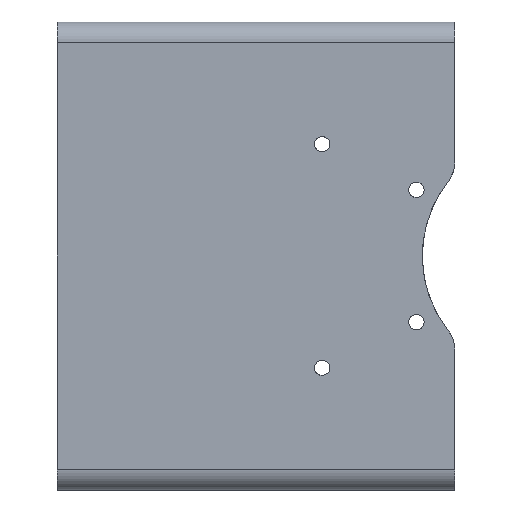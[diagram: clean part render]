
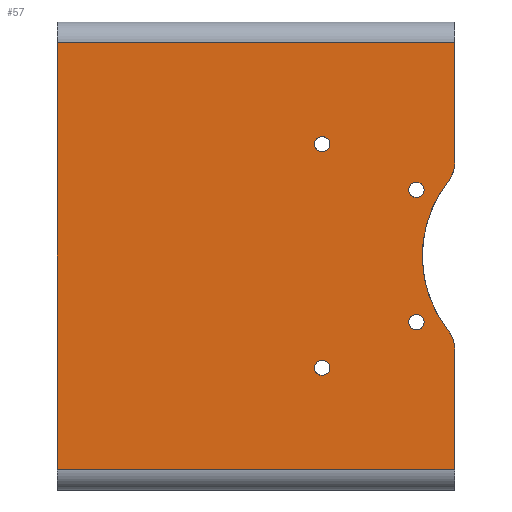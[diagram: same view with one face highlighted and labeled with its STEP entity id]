
A CAD part, left-side view. The second image highlights one B-rep face of the part: STEP entity #57.
In plain terms, the highlighted planar face has unit normal (-1, 0, 0).
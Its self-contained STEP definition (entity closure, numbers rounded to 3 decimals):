
#57=ADVANCED_FACE('',(#197,#143,#144,#145,#146),#1911,.T.);
#143=FACE_BOUND('',#327,.T.);
#144=FACE_BOUND('',#328,.T.);
#145=FACE_BOUND('',#329,.T.);
#146=FACE_BOUND('',#330,.T.);
#197=FACE_OUTER_BOUND('',#326,.T.);
#326=EDGE_LOOP('',(#682,#683,#684,#685,#686,#687,#688,#689));
#327=EDGE_LOOP('',(#690,#691));
#328=EDGE_LOOP('',(#692,#693));
#329=EDGE_LOOP('',(#694,#695));
#330=EDGE_LOOP('',(#696,#697));
#682=ORIENTED_EDGE('',*,*,#1190,.T.);
#683=ORIENTED_EDGE('',*,*,#1093,.T.);
#684=ORIENTED_EDGE('',*,*,#1161,.T.);
#685=ORIENTED_EDGE('',*,*,#1115,.F.);
#686=ORIENTED_EDGE('',*,*,#1160,.T.);
#687=ORIENTED_EDGE('',*,*,#1084,.T.);
#688=ORIENTED_EDGE('',*,*,#1202,.T.);
#689=ORIENTED_EDGE('',*,*,#1196,.T.);
#690=ORIENTED_EDGE('',*,*,#1158,.T.);
#691=ORIENTED_EDGE('',*,*,#1152,.T.);
#692=ORIENTED_EDGE('',*,*,#1172,.T.);
#693=ORIENTED_EDGE('',*,*,#1166,.T.);
#694=ORIENTED_EDGE('',*,*,#1186,.T.);
#695=ORIENTED_EDGE('',*,*,#1180,.T.);
#696=ORIENTED_EDGE('',*,*,#1144,.T.);
#697=ORIENTED_EDGE('',*,*,#1138,.T.);
#1084=EDGE_CURVE('',#1677,#1678,#1496,.T.);
#1093=EDGE_CURVE('',#1689,#1690,#1505,.T.);
#1115=EDGE_CURVE('',#1718,#1717,#1523,.T.);
#1138=EDGE_CURVE('',#1746,#1747,#1360,.T.);
#1144=EDGE_CURVE('',#1747,#1746,#1364,.T.);
#1152=EDGE_CURVE('',#1758,#1759,#1368,.T.);
#1158=EDGE_CURVE('',#1759,#1758,#1372,.T.);
#1160=EDGE_CURVE('',#1718,#1677,#1548,.T.);
#1161=EDGE_CURVE('',#1690,#1717,#1549,.T.);
#1166=EDGE_CURVE('',#1764,#1765,#1376,.T.);
#1172=EDGE_CURVE('',#1765,#1764,#1380,.T.);
#1180=EDGE_CURVE('',#1766,#1767,#1384,.T.);
#1186=EDGE_CURVE('',#1767,#1766,#1388,.T.);
#1190=EDGE_CURVE('',#1762,#1689,#1391,.T.);
#1196=EDGE_CURVE('',#1763,#1762,#1395,.T.);
#1202=EDGE_CURVE('',#1678,#1763,#1400,.T.);
#1360=(
BOUNDED_CURVE()
B_SPLINE_CURVE(2,(#3070,#3071,#3072,#3073,#3074),.UNSPECIFIED.,.F.,.F.)
B_SPLINE_CURVE_WITH_KNOTS((3,2,3),(0.,4.084,8.168),
 .UNSPECIFIED.)
CURVE()
GEOMETRIC_REPRESENTATION_ITEM()
RATIONAL_B_SPLINE_CURVE((1.,0.707,1.,0.707,1.))
REPRESENTATION_ITEM('')
);
#1364=(
BOUNDED_CURVE()
B_SPLINE_CURVE(2,(#3094,#3095,#3096,#3097,#3098),.UNSPECIFIED.,.F.,.F.)
B_SPLINE_CURVE_WITH_KNOTS((3,2,3),(0.,4.084,8.168),
 .UNSPECIFIED.)
CURVE()
GEOMETRIC_REPRESENTATION_ITEM()
RATIONAL_B_SPLINE_CURVE((1.,0.707,1.,0.707,1.))
REPRESENTATION_ITEM('')
);
#1368=(
BOUNDED_CURVE()
B_SPLINE_CURVE(2,(#3122,#3123,#3124,#3125,#3126),.UNSPECIFIED.,.F.,.F.)
B_SPLINE_CURVE_WITH_KNOTS((3,2,3),(0.,4.084,8.168),
 .UNSPECIFIED.)
CURVE()
GEOMETRIC_REPRESENTATION_ITEM()
RATIONAL_B_SPLINE_CURVE((1.,0.707,1.,0.707,1.))
REPRESENTATION_ITEM('')
);
#1372=(
BOUNDED_CURVE()
B_SPLINE_CURVE(2,(#3146,#3147,#3148,#3149,#3150),.UNSPECIFIED.,.F.,.F.)
B_SPLINE_CURVE_WITH_KNOTS((3,2,3),(0.,4.084,8.168),
 .UNSPECIFIED.)
CURVE()
GEOMETRIC_REPRESENTATION_ITEM()
RATIONAL_B_SPLINE_CURVE((1.,0.707,1.,0.707,1.))
REPRESENTATION_ITEM('')
);
#1376=(
BOUNDED_CURVE()
B_SPLINE_CURVE(2,(#3174,#3175,#3176,#3177,#3178),.UNSPECIFIED.,.F.,.F.)
B_SPLINE_CURVE_WITH_KNOTS((3,2,3),(0.,4.084,8.168),
 .UNSPECIFIED.)
CURVE()
GEOMETRIC_REPRESENTATION_ITEM()
RATIONAL_B_SPLINE_CURVE((1.,0.707,1.,0.707,1.))
REPRESENTATION_ITEM('')
);
#1380=(
BOUNDED_CURVE()
B_SPLINE_CURVE(2,(#3198,#3199,#3200,#3201,#3202),.UNSPECIFIED.,.F.,.F.)
B_SPLINE_CURVE_WITH_KNOTS((3,2,3),(0.,4.084,8.168),
 .UNSPECIFIED.)
CURVE()
GEOMETRIC_REPRESENTATION_ITEM()
RATIONAL_B_SPLINE_CURVE((1.,0.707,1.,0.707,1.))
REPRESENTATION_ITEM('')
);
#1384=(
BOUNDED_CURVE()
B_SPLINE_CURVE(2,(#3226,#3227,#3228,#3229,#3230),.UNSPECIFIED.,.F.,.F.)
B_SPLINE_CURVE_WITH_KNOTS((3,2,3),(0.,4.084,8.168),
 .UNSPECIFIED.)
CURVE()
GEOMETRIC_REPRESENTATION_ITEM()
RATIONAL_B_SPLINE_CURVE((1.,0.707,1.,0.707,1.))
REPRESENTATION_ITEM('')
);
#1388=(
BOUNDED_CURVE()
B_SPLINE_CURVE(2,(#3250,#3251,#3252,#3253,#3254),.UNSPECIFIED.,.F.,.F.)
B_SPLINE_CURVE_WITH_KNOTS((3,2,3),(0.,4.084,8.168),
 .UNSPECIFIED.)
CURVE()
GEOMETRIC_REPRESENTATION_ITEM()
RATIONAL_B_SPLINE_CURVE((1.,0.707,1.,0.707,1.))
REPRESENTATION_ITEM('')
);
#1391=(
BOUNDED_CURVE()
B_SPLINE_CURVE(2,(#3265,#3266,#3267),.UNSPECIFIED.,.F.,.F.)
B_SPLINE_CURVE_WITH_KNOTS((3,3),(0.,6.692),.UNSPECIFIED.)
CURVE()
GEOMETRIC_REPRESENTATION_ITEM()
RATIONAL_B_SPLINE_CURVE((1.,0.945,1.))
REPRESENTATION_ITEM('')
);
#1395=(
BOUNDED_CURVE()
B_SPLINE_CURVE(2,(#3281,#3282,#3283),.UNSPECIFIED.,.F.,.F.)
B_SPLINE_CURVE_WITH_KNOTS((3,3),(0.,54.875),.UNSPECIFIED.)
CURVE()
GEOMETRIC_REPRESENTATION_ITEM()
RATIONAL_B_SPLINE_CURVE((1.,0.784,1.))
REPRESENTATION_ITEM('')
);
#1400=(
BOUNDED_CURVE()
B_SPLINE_CURVE(2,(#3298,#3299,#3300),.UNSPECIFIED.,.F.,.F.)
B_SPLINE_CURVE_WITH_KNOTS((3,3),(0.,6.692),.UNSPECIFIED.)
CURVE()
GEOMETRIC_REPRESENTATION_ITEM()
RATIONAL_B_SPLINE_CURVE((1.,0.945,1.))
REPRESENTATION_ITEM('')
);
#1496=B_SPLINE_CURVE_WITH_KNOTS('',1,(#2948,#2949),.UNSPECIFIED.,.F.,.F.,
(2,2),(0.,40.861),.UNSPECIFIED.);
#1505=B_SPLINE_CURVE_WITH_KNOTS('',1,(#2966,#2967),.UNSPECIFIED.,.F.,.F.,
(2,2),(0.,40.861),.UNSPECIFIED.);
#1523=B_SPLINE_CURVE_WITH_KNOTS('',1,(#3014,#3015),.UNSPECIFIED.,.F.,.F.,
(2,2),(-145.,0.),.UNSPECIFIED.);
#1548=B_SPLINE_CURVE_WITH_KNOTS('',1,(#3156,#3157),.UNSPECIFIED.,.F.,.F.,
(2,2),(-135.,0.),.UNSPECIFIED.);
#1549=B_SPLINE_CURVE_WITH_KNOTS('',1,(#3158,#3159),.UNSPECIFIED.,.F.,.F.,
(2,2),(-135.,0.),.UNSPECIFIED.);
#1677=VERTEX_POINT('',#2591);
#1678=VERTEX_POINT('',#2592);
#1689=VERTEX_POINT('',#2603);
#1690=VERTEX_POINT('',#2604);
#1717=VERTEX_POINT('',#2631);
#1718=VERTEX_POINT('',#2632);
#1746=VERTEX_POINT('',#2660);
#1747=VERTEX_POINT('',#2661);
#1758=VERTEX_POINT('',#2672);
#1759=VERTEX_POINT('',#2673);
#1762=VERTEX_POINT('',#2676);
#1763=VERTEX_POINT('',#2677);
#1764=VERTEX_POINT('',#2678);
#1765=VERTEX_POINT('',#2679);
#1766=VERTEX_POINT('',#2680);
#1767=VERTEX_POINT('',#2681);
#1911=PLANE('',#2057);
#2057=AXIS2_PLACEMENT_3D('',#2263,#2160,$);
#2160=DIRECTION('',(-1.,0.,0.));
#2263=CARTESIAN_POINT('',(-145.5,16.38,-106.52));
#2591=CARTESIAN_POINT('',(-145.5,30.,-91.9));
#2592=CARTESIAN_POINT('',(-145.5,30.,-51.039));
#2603=CARTESIAN_POINT('',(-145.5,30.,12.239));
#2604=CARTESIAN_POINT('',(-145.5,30.,53.1));
#2631=CARTESIAN_POINT('',(-145.5,165.,53.1));
#2632=CARTESIAN_POINT('',(-145.5,165.,-91.9));
#2660=CARTESIAN_POINT('',(-145.5,43.,0.5));
#2661=CARTESIAN_POINT('',(-145.5,43.,5.7));
#2672=CARTESIAN_POINT('',(-145.5,43.,-44.5));
#2673=CARTESIAN_POINT('',(-145.5,43.,-39.3));
#2676=CARTESIAN_POINT('',(-145.5,32.157,6.035));
#2677=CARTESIAN_POINT('',(-145.5,32.157,-44.835));
#2678=CARTESIAN_POINT('',(-145.5,75.,16.));
#2679=CARTESIAN_POINT('',(-145.5,75.,21.2));
#2680=CARTESIAN_POINT('',(-145.5,75.,-60.));
#2681=CARTESIAN_POINT('',(-145.5,75.,-54.8));
#2948=CARTESIAN_POINT('',(-145.5,30.,-91.9));
#2949=CARTESIAN_POINT('',(-145.5,30.,-51.039));
#2966=CARTESIAN_POINT('',(-145.5,30.,12.239));
#2967=CARTESIAN_POINT('',(-145.5,30.,53.1));
#3014=CARTESIAN_POINT('',(-145.5,165.,-91.9));
#3015=CARTESIAN_POINT('',(-145.5,165.,53.1));
#3070=CARTESIAN_POINT('',(-145.5,43.,0.5));
#3071=CARTESIAN_POINT('',(-145.5,45.6,0.5));
#3072=CARTESIAN_POINT('',(-145.5,45.6,3.1));
#3073=CARTESIAN_POINT('',(-145.5,45.6,5.7));
#3074=CARTESIAN_POINT('',(-145.5,43.,5.7));
#3094=CARTESIAN_POINT('',(-145.5,43.,5.7));
#3095=CARTESIAN_POINT('',(-145.5,40.4,5.7));
#3096=CARTESIAN_POINT('',(-145.5,40.4,3.1));
#3097=CARTESIAN_POINT('',(-145.5,40.4,0.5));
#3098=CARTESIAN_POINT('',(-145.5,43.,0.5));
#3122=CARTESIAN_POINT('',(-145.5,43.,-44.5));
#3123=CARTESIAN_POINT('',(-145.5,45.6,-44.5));
#3124=CARTESIAN_POINT('',(-145.5,45.6,-41.9));
#3125=CARTESIAN_POINT('',(-145.5,45.6,-39.3));
#3126=CARTESIAN_POINT('',(-145.5,43.,-39.3));
#3146=CARTESIAN_POINT('',(-145.5,43.,-39.3));
#3147=CARTESIAN_POINT('',(-145.5,40.4,-39.3));
#3148=CARTESIAN_POINT('',(-145.5,40.4,-41.9));
#3149=CARTESIAN_POINT('',(-145.5,40.4,-44.5));
#3150=CARTESIAN_POINT('',(-145.5,43.,-44.5));
#3156=CARTESIAN_POINT('',(-145.5,165.,-91.9));
#3157=CARTESIAN_POINT('',(-145.5,30.,-91.9));
#3158=CARTESIAN_POINT('',(-145.5,30.,53.1));
#3159=CARTESIAN_POINT('',(-145.5,165.,53.1));
#3174=CARTESIAN_POINT('',(-145.5,75.,16.));
#3175=CARTESIAN_POINT('',(-145.5,77.6,16.));
#3176=CARTESIAN_POINT('',(-145.5,77.6,18.6));
#3177=CARTESIAN_POINT('',(-145.5,77.6,21.2));
#3178=CARTESIAN_POINT('',(-145.5,75.,21.2));
#3198=CARTESIAN_POINT('',(-145.5,75.,21.2));
#3199=CARTESIAN_POINT('',(-145.5,72.4,21.2));
#3200=CARTESIAN_POINT('',(-145.5,72.4,18.6));
#3201=CARTESIAN_POINT('',(-145.5,72.4,16.));
#3202=CARTESIAN_POINT('',(-145.5,75.,16.));
#3226=CARTESIAN_POINT('',(-145.5,75.,-60.));
#3227=CARTESIAN_POINT('',(-145.5,77.6,-60.));
#3228=CARTESIAN_POINT('',(-145.5,77.6,-57.4));
#3229=CARTESIAN_POINT('',(-145.5,77.6,-54.8));
#3230=CARTESIAN_POINT('',(-145.5,75.,-54.8));
#3250=CARTESIAN_POINT('',(-145.5,75.,-54.8));
#3251=CARTESIAN_POINT('',(-145.5,72.4,-54.8));
#3252=CARTESIAN_POINT('',(-145.5,72.4,-57.4));
#3253=CARTESIAN_POINT('',(-145.5,72.4,-60.));
#3254=CARTESIAN_POINT('',(-145.5,75.,-60.));
#3265=CARTESIAN_POINT('',(-145.5,32.157,6.035));
#3266=CARTESIAN_POINT('',(-145.5,30.,8.762));
#3267=CARTESIAN_POINT('',(-145.5,30.,12.239));
#3281=CARTESIAN_POINT('',(-145.5,32.157,-44.835));
#3282=CARTESIAN_POINT('',(-145.5,52.275,-19.4));
#3283=CARTESIAN_POINT('',(-145.5,32.157,6.035));
#3298=CARTESIAN_POINT('',(-145.5,30.,-51.039));
#3299=CARTESIAN_POINT('',(-145.5,30.,-47.562));
#3300=CARTESIAN_POINT('',(-145.5,32.157,-44.835));
